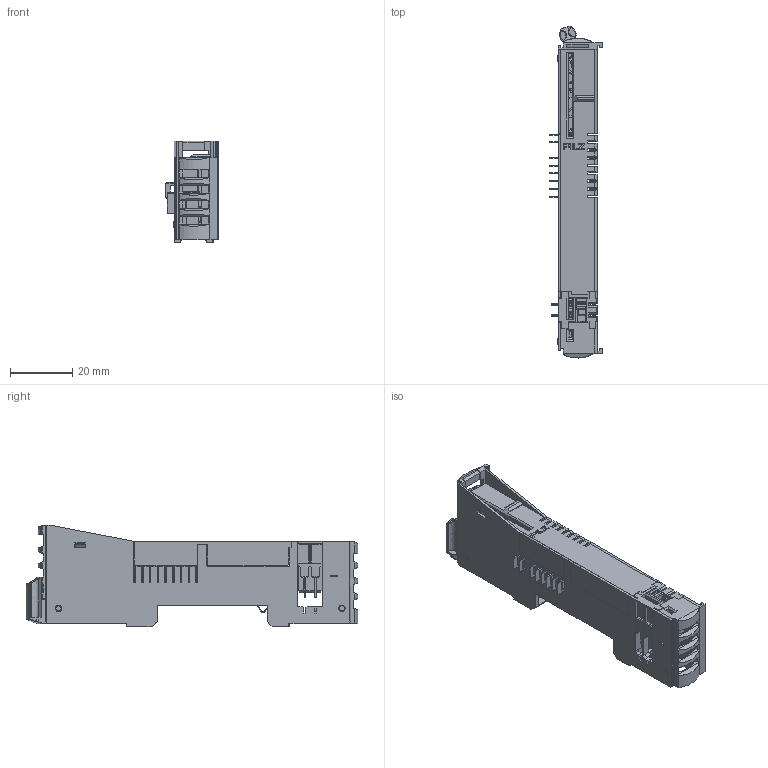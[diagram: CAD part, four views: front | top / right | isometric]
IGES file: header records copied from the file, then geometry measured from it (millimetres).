
Start section:  PTC IGES file: 2024605
Global section: file name: 2024605; native system: Creo Parametric by PTC Inc.; preprocessor: 2019292; author: l.merz; organization: Unknown; date: 20240502.075232; units: millimetre
Bounding box: 16.9 x 106.97 x 32.85 mm (x, y, z)
Surface area: 26573.1 mm2 (no closed solid volume)
Topology: 0 solids, 0 shells, 5135 faces, 28598 edges, 28563 vertices
Faces by surface type: bspline 3386, revolution 1244, extrusion 505
